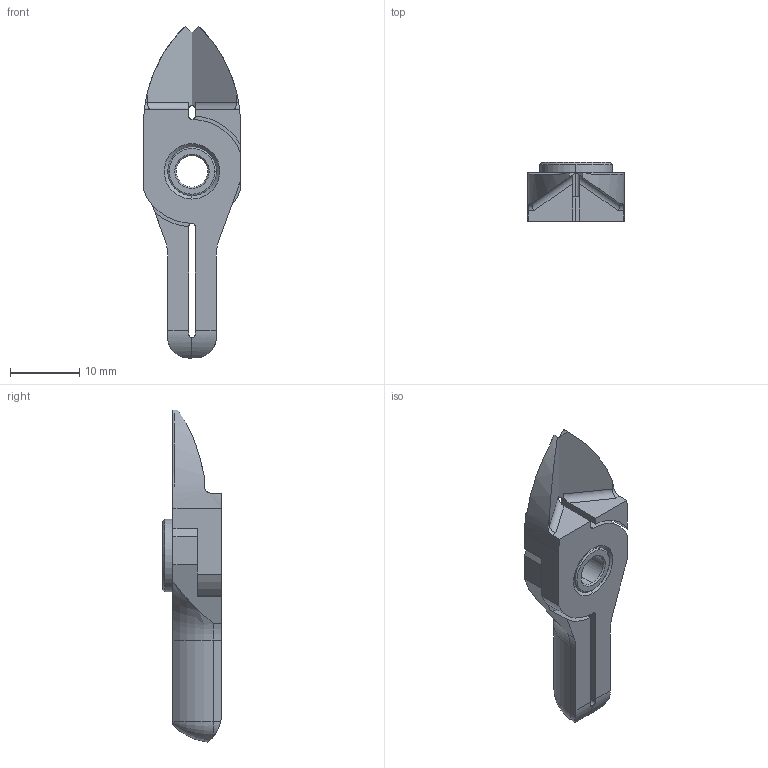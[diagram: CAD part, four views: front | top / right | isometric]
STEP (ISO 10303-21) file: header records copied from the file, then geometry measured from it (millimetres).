
FILE_DESCRIPTION (( 'STEP AP214' ), '1' );
FILE_NAME ('NY03AJ.STEP', '2019-11-28T02:33:08', ( '微软用户' ), ( '微软中国' ), 'SwSTEP 2.0', 'SolidWorks 2016', '' );
FILE_SCHEMA (( 'AUTOMOTIVE_DESIGN' ));
Length unit declared in the file: millimetre
Products named in the file (1): NY03AJ
Bounding box: 14 x 8.5 x 47.96 mm (x, y, z)
Surface area: 2789.2 mm2 (no closed solid volume)
Topology: 0 solids, 4 shells, 125 faces, 339 edges, 218 vertices
Faces by surface type: cylinder 52, plane 41, cone 22, torus 8, bspline 2
Entity records: 4435 total; most frequent: CARTESIAN_POINT 1228, DIRECTION 696, ORIENTED_EDGE 644, EDGE_CURVE 335, AXIS2_PLACEMENT_3D 268, VERTEX_POINT 218, LINE 160, VECTOR 160
